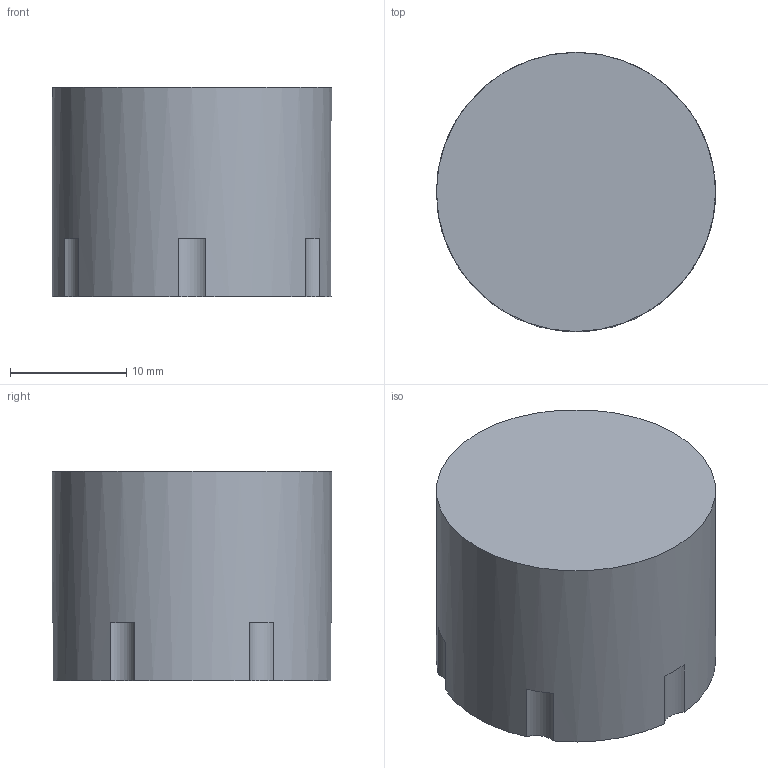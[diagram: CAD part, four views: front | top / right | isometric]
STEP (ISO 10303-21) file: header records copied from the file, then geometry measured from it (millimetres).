
FILE_DESCRIPTION(('FreeCAD Model'),'2;1');
FILE_NAME('Open CASCADE Shape Model','2021-08-31T16:15:33',('Author'),( ''),'Open CASCADE STEP processor 7.5','FreeCAD','Unknown');
FILE_SCHEMA(('AUTOMOTIVE_DESIGN { 1 0 10303 214 1 1 1 1 }'));
Length unit declared in the file: millimetre
Products named in the file (1): Solid
Bounding box: 24 x 24 x 18.02 mm (x, y, z)
Volume: 8127.2 mm3; surface area: 2269.6 mm2
Topology: 1 solids, 1 shells, 15 faces, 39 edges, 26 vertices
Faces by surface type: plane 8, cylinder 7
Full cylindrical faces by diameter (mm): 24 x1
Entity records: 1205 total; most frequent: CARTESIAN_POINT 376, DIRECTION 165, ORIENTED_EDGE 78, PCURVE 78, DEFINITIONAL_REPRESENTATION 78, LINE 55, VECTOR 55, CIRCLE 52
